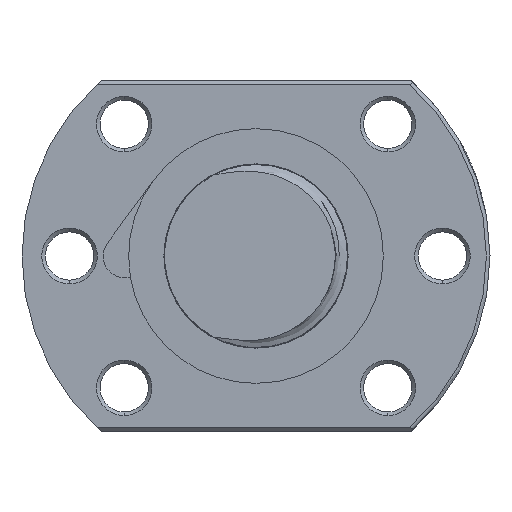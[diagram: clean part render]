
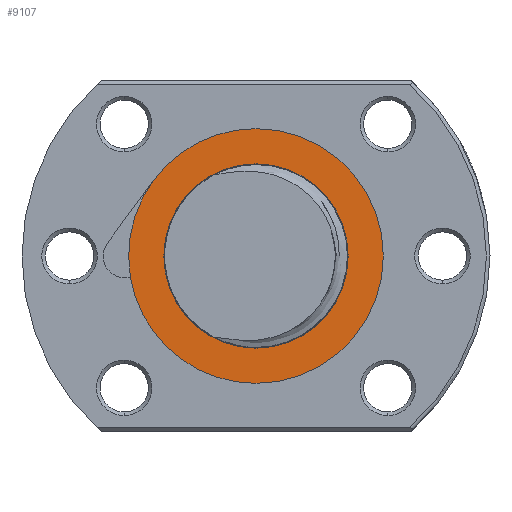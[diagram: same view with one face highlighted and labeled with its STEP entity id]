
A CAD part, left-side view. The second image highlights one B-rep face of the part: STEP entity #9107.
In plain terms, the highlighted planar face has unit normal (-1, 0, 0).
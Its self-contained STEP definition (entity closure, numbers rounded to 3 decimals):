
#8502 = EDGE_CURVE ( 'NONE', #8503, #8504, #31470, .T. ) ;
#8503 = VERTEX_POINT ( 'NONE', #31529 ) ;
#8504 = VERTEX_POINT ( 'NONE', #31528 ) ;
#8591 = EDGE_CURVE ( 'NONE', #8504, #8592, #22878, .T. ) ;
#8592 = VERTEX_POINT ( 'NONE', #22873 ) ;
#8626 = VERTEX_POINT ( 'NONE', #22768 ) ;
#8628 = EDGE_CURVE ( 'NONE', #8626, #8629, #22767, .T. ) ;
#8629 = VERTEX_POINT ( 'NONE', #22762 ) ;
#8682 = EDGE_CURVE ( 'NONE', #8629, #8626, #23041, .T. ) ;
#8892 = EDGE_CURVE ( 'NONE', #8893, #8503, #23538, .T. ) ;
#8893 = VERTEX_POINT ( 'NONE', #23534 ) ;
#9063 = ORIENTED_EDGE ( 'NONE', *, *, #8628, .F. ) ;
#9101 = ORIENTED_EDGE ( 'NONE', *, *, #8892, .T. ) ;
#9102 = ORIENTED_EDGE ( 'NONE', *, *, #8502, .T. ) ;
#9103 = ORIENTED_EDGE ( 'NONE', *, *, #8591, .T. ) ;
#9104 = EDGE_LOOP ( 'NONE', ( #9105, #9063 ) ) ;
#9105 = ORIENTED_EDGE ( 'NONE', *, *, #8682, .F. ) ;
#9107 = ADVANCED_FACE ( 'NONE', ( #24038, #24037 ), #24035, .T. ) ;
#9108 = EDGE_LOOP ( 'NONE', ( #9109, #9101, #9102, #9103 ) ) ;
#9109 = ORIENTED_EDGE ( 'NONE', *, *, #9110, .T. ) ;
#9110 = EDGE_CURVE ( 'NONE', #8592, #8893, #24055, .T. ) ;
#22762 = CARTESIAN_POINT ( 'NONE',  ( -86.8, 0., 12.6 ) ) ;
#22763 = DIRECTION ( 'NONE',  ( 0., 0., 1. ) ) ;
#22764 = DIRECTION ( 'NONE',  ( -1., 0., 0. ) ) ;
#22765 = CARTESIAN_POINT ( 'NONE',  ( -86.8, 0., 0. ) ) ;
#22766 = AXIS2_PLACEMENT_3D ( 'NONE', #22765, #22764, #22763 ) ;
#22767 = CIRCLE ( 'NONE', #22766, 12.6 ) ;
#22768 = CARTESIAN_POINT ( 'NONE',  ( -86.8, 0., -12.6 ) ) ;
#22873 = CARTESIAN_POINT ( 'NONE',  ( -86.8, 14.028, 10.32 ) ) ;
#22874 = DIRECTION ( 'NONE',  ( 0., 0., 1. ) ) ;
#22875 = DIRECTION ( 'NONE',  ( -1., 0., 0. ) ) ;
#22876 = CARTESIAN_POINT ( 'NONE',  ( -86.8, 0., 0. ) ) ;
#22877 = AXIS2_PLACEMENT_3D ( 'NONE', #22876, #22875, #22874 ) ;
#22878 = CIRCLE ( 'NONE', #22877, 17.416 ) ;
#23037 = DIRECTION ( 'NONE',  ( 0., 0., 1. ) ) ;
#23038 = DIRECTION ( 'NONE',  ( -1., 0., 0. ) ) ;
#23039 = CARTESIAN_POINT ( 'NONE',  ( -86.8, 0., 0. ) ) ;
#23040 = AXIS2_PLACEMENT_3D ( 'NONE', #23039, #23038, #23037 ) ;
#23041 = CIRCLE ( 'NONE', #23040, 12.6 ) ;
#23534 = CARTESIAN_POINT ( 'NONE',  ( -86.8, 17.174, -2.891 ) ) ;
#23535 = DIRECTION ( 'NONE',  ( 0., 0., 1. ) ) ;
#23536 = DIRECTION ( 'NONE',  ( -1., 0., 0. ) ) ;
#23537 = AXIS2_PLACEMENT_3D ( 'NONE', #23543, #23536, #23535 ) ;
#23538 = CIRCLE ( 'NONE', #23537, 17.416 ) ;
#23543 = CARTESIAN_POINT ( 'NONE',  ( -86.8, 0., 0. ) ) ;
#23981 = DIRECTION ( 'NONE',  ( 0., 0., 1. ) ) ;
#23982 = DIRECTION ( 'NONE',  ( -1., 0., 0. ) ) ;
#23983 = CARTESIAN_POINT ( 'NONE',  ( -86.8, 0., 0. ) ) ;
#23984 = AXIS2_PLACEMENT_3D ( 'NONE', #23983, #23982, #23981 ) ;
#24035 = PLANE ( 'NONE',  #24059 ) ;
#24037 = FACE_BOUND ( 'NONE', #9104, .T. ) ;
#24038 = FACE_OUTER_BOUND ( 'NONE', #9108, .T. ) ;
#24055 = CIRCLE ( 'NONE', #23984, 17.416 ) ;
#24056 = DIRECTION ( 'NONE',  ( 0., 0., 1. ) ) ;
#24057 = DIRECTION ( 'NONE',  ( -1., 0., 0. ) ) ;
#24058 = CARTESIAN_POINT ( 'NONE',  ( -86.8, 0., 12.6 ) ) ;
#24059 = AXIS2_PLACEMENT_3D ( 'NONE', #24058, #24057, #24056 ) ;
#31467 = DIRECTION ( 'NONE',  ( -1., 0., 0. ) ) ;
#31468 = CARTESIAN_POINT ( 'NONE',  ( -86.8, 0., 0. ) ) ;
#31469 = AXIS2_PLACEMENT_3D ( 'NONE', #31468, #31467, #31530 ) ;
#31470 = CIRCLE ( 'NONE', #31469, 17.416 ) ;
#31528 = CARTESIAN_POINT ( 'NONE',  ( -86.8, 0., 17.416 ) ) ;
#31529 = CARTESIAN_POINT ( 'NONE',  ( -86.8, 0., -17.416 ) ) ;
#31530 = DIRECTION ( 'NONE',  ( 0., 0., 1. ) ) ;
